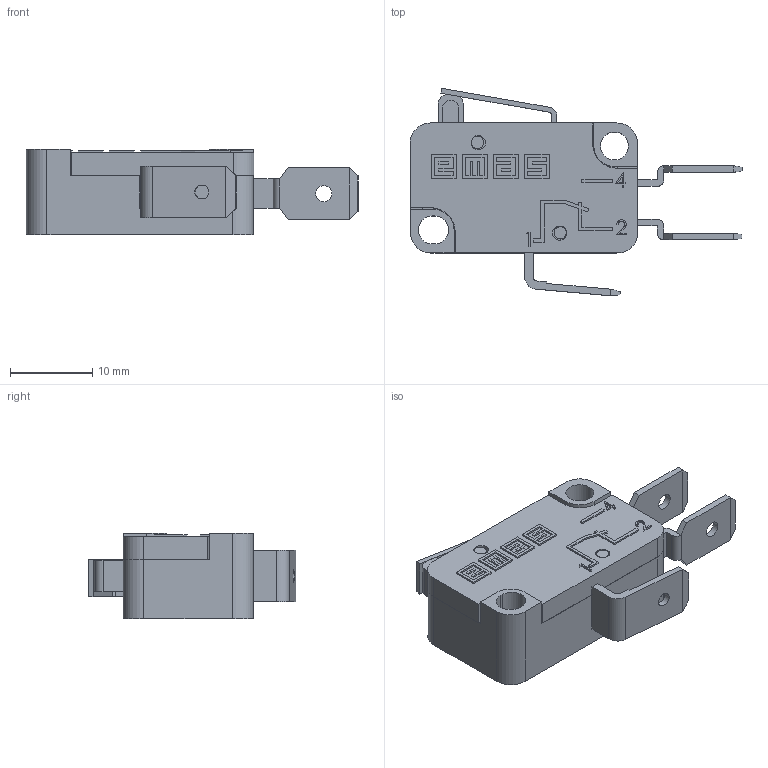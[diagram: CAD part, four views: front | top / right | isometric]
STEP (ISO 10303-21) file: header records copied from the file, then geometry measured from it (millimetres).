
FILE_DESCRIPTION((''),'2; 1');
FILE_NAME('','2026-03-27T16:17:51',(''),(''),'CST STEP Exporter V1.0','Unknown','');
FILE_SCHEMA(('CONFIG_CONTROL_DESIGN'));
Length unit declared in the file: metre
Assembly tree (8 placements, depth 2):
  (unnamed)
    (unnamed)
    (unnamed)
    (unnamed)
    (unnamed)
    (unnamed)
    (unnamed)
    (unnamed)
    (unnamed)
Bounding box: 40.35 x 25.21 x 10.4 mm (x, y, z)
Surface area: 7007.5 mm2 (no closed solid volume)
Topology: 0 solids, 8 shells, 287 faces, 1036 edges, 772 vertices
Faces by surface type: plane 243, cylinder 38, extrusion 6
Full cylindrical faces by diameter (mm): 1.5 x2, 1.7 x1, 1.75 x2, 1.95 x2, 3.4 x1
Entity records: 13485 total; most frequent: CARTESIAN_POINT 2261, ORIENTED_EDGE 1728, DIRECTION 1717, EDGE_CURVE 1025, VECTOR 855, LINE 849, VERTEX_POINT 769, AXIS2_PLACEMENT_3D 431
